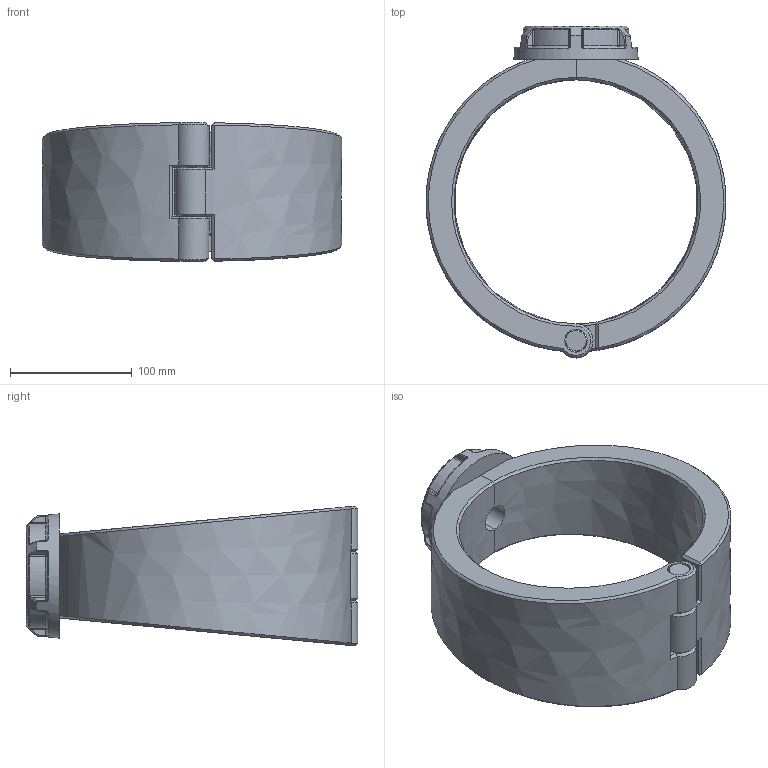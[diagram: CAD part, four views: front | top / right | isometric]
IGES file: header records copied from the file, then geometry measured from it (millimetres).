
Global section: file name: 163000200015; native system: Autodesk Inventor 2019; preprocessor: unknown; author: comp2; date: 20240828.103220; units: millimetre
Bounding box: 245.89 x 272 x 114.62 mm (x, y, z)
Volume: 1565336.9 mm3; surface area: 202048.6 mm2
Topology: 4 solids, 4 shells, 203 faces, 486 edges, 293 vertices
Faces by surface type: bspline 203
